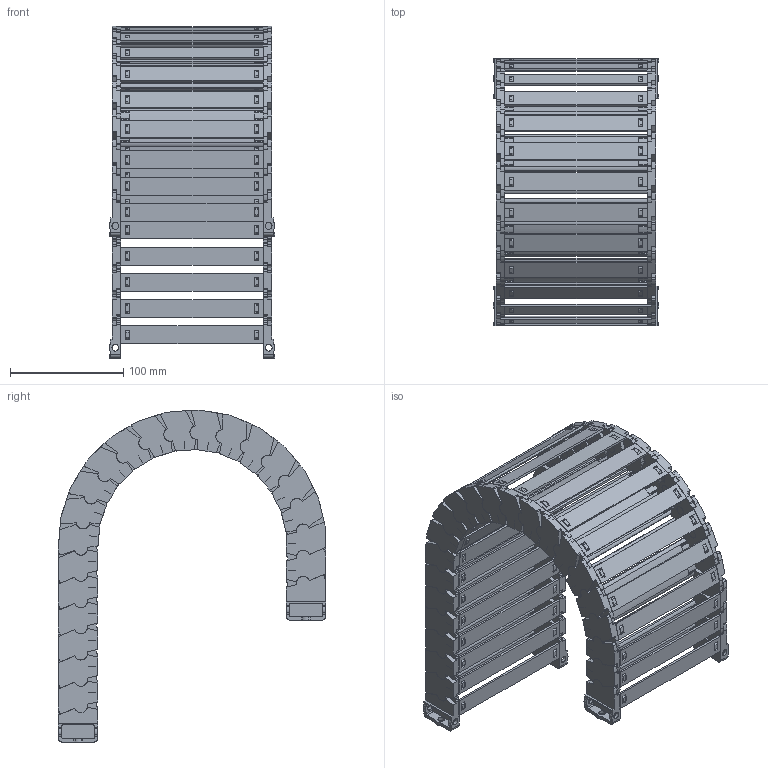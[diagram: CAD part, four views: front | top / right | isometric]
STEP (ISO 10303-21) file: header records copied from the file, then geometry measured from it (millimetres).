
FILE_DESCRIPTION((''),'2;1');
FILE_NAME('JY-25X125-R100_ASM','2022-05-07T10:48:55',('admin'),(''),'CREO PARAMETRIC BY PTC INC, 2021164','CREO PARAMETRIC BY PTC INC, 2021164','');
FILE_SCHEMA(('CONFIG_CONTROL_DESIGN','GEOMETRIC_VALIDATION_PROPERTIES_MIM'));
Length unit declared in the file: millimetre
Products named in the file (11): 25XL-L; 25-35XL-YP; 25XL-R; ASM0001_ASM; 25-LTT-A-L; 25-LTT-A-R; 25XL-LTT-A_ASM; 25-LTT-B-L; 25-LTT-B-R; 25XL-LTT-B_ASM; JY-25X125-R100_ASM
Assembly tree (35 placements, depth 3):
  JY-25X125-R100_ASM
    ASM0001_ASM  x21
      25XL-L
      25-35XL-YP
      25XL-R
    25XL-LTT-A_ASM
      25-LTT-A-L
      25-35XL-YP  x2
      25-LTT-A-R
    25XL-LTT-B_ASM
      25-LTT-B-L
      25-35XL-YP  x2
      25-LTT-B-R
Bounding box: 146.18 x 235.5 x 292.58 mm (x, y, z)
Volume: 552325.5 mm3; surface area: 404936.4 mm2
Topology: 92 solids, 113 shells, 4780 faces, 14283 edges, 9664 vertices
Faces by surface type: plane 3523, cylinder 1215, cone 42
Entity records: 24095 total; most frequent: CARTESIAN_POINT 3126, DIRECTION 3021, ORIENTED_EDGE 2962, EDGE_CURVE 1483, PRESENTATION_STYLE_ASSIGNMENT 1413, STYLED_ITEM 1381, VECTOR 1053, LINE 1053
